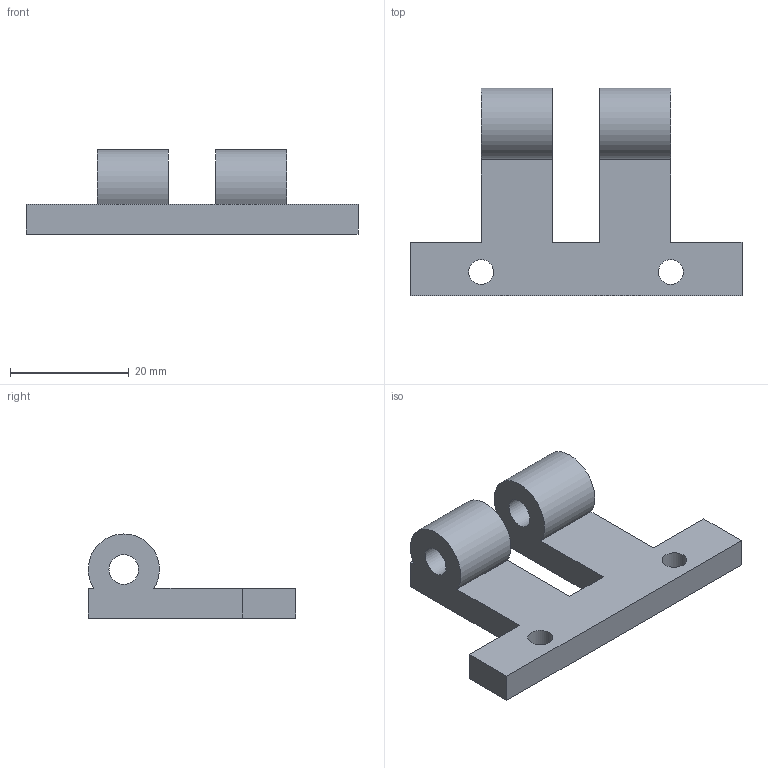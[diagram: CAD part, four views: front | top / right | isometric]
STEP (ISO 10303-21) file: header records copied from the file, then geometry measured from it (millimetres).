
FILE_DESCRIPTION(('FreeCAD Model'),'2;1');
FILE_NAME('Open CASCADE Shape Model','2026-10-14T02:29:14',('FreeCAD'),( 'FreeCAD'),'Open CASCADE STEP processor 7.8','FreeCAD','Unknown');
FILE_SCHEMA(('AUTOMOTIVE_DESIGN { 1 0 10303 214 1 1 1 1 }'));
Length unit declared in the file: millimetre
Products named in the file (1): Open CASCADE STEP translator 7.8 79
Bounding box: 56 x 35 x 14.2 mm (x, y, z)
Volume: 7263.2 mm3; surface area: 4543.9 mm2
Topology: 1 solids, 1 shells, 22 faces, 72 edges, 52 vertices
Faces by surface type: plane 16, cylinder 6
Full cylindrical faces by diameter (mm): 4.2 x2, 5 x2
Entity records: 842 total; most frequent: CARTESIAN_POINT 147, ORIENTED_EDGE 144, DIRECTION 142, EDGE_CURVE 72, VERTEX_POINT 52, LINE 48, VECTOR 48, AXIS2_PLACEMENT_3D 47
